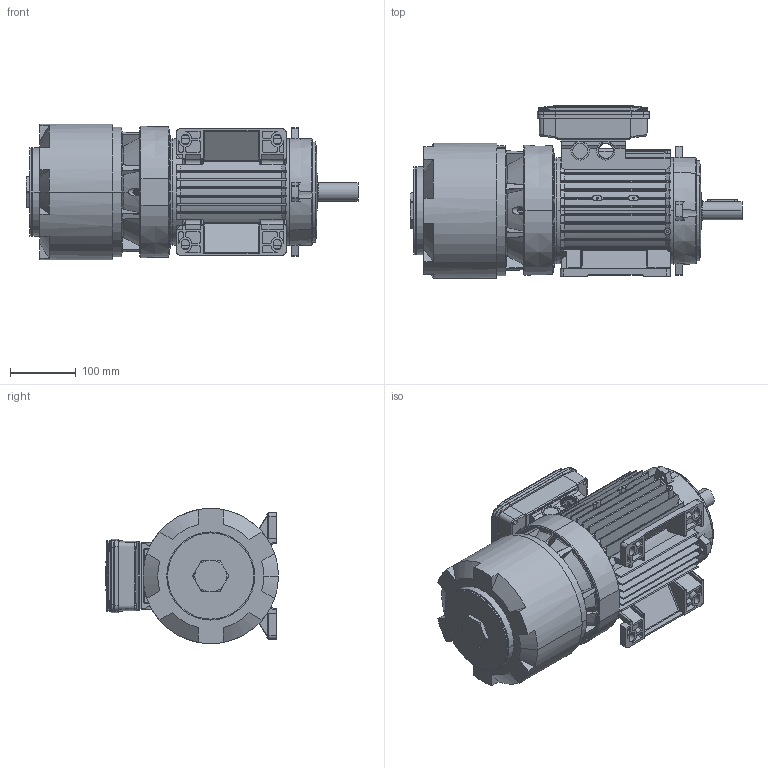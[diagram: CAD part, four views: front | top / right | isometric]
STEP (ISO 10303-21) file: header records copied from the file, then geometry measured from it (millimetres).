
FILE_DESCRIPTION (( 'STEP AP214' ), '1' );
FILE_NAME ('M08GA0010.STEP', '2020-11-04T15:22:36', ( '' ), ( '' ), 'SwSTEP 2.0', 'SolidWorks 2018', '' );
FILE_SCHEMA (( 'AUTOMOTIVE_DESIGN' ));
Length unit declared in the file: millimetre
Products named in the file (15): Scatola per Morsettiera Doppia 90-100-112 - Completa; Guarnizione Coperchio Semplice Scatola BA 90 100 112 - DDAL0094; Vite  a testa bombata M4x16; Coperchio per Scatola per Morsettiera Doppia 90-100-112; Scatola per Morsettiera Doppia 90-100-112; Scudo Lato Comando B3 BA-BM 100 - DEAD0094; Chiavetta 100-112; Convogliatore con pista d''attrito P2 BAH 100 -; Scudo Lato Freno BA 100 P1 - DEAE0194; Albero BA 100; Carcassa 100 L B3; M08GA0010; Vite BAH 80; Tappo a testa Esagonale M40x1,5; cuffia BAH 100 - DEFK0019
Assembly tree (17 placements, depth 3):
  M08GA0010
    Carcassa 100 L B3
    Albero BA 100
    Scudo Lato Freno BA 100 P1 - DEAE0194
    Convogliatore con pista d''attrito P2 BAH 100 -
    Chiavetta 100-112
    Scudo Lato Comando B3 BA-BM 100 - DEAD0094
    Scatola per Morsettiera Doppia 90-100-112 - Completa
      Scatola per Morsettiera Doppia 90-100-112
      Coperchio per Scatola per Morsettiera Doppia 90-100-112
      Vite  a testa bombata M4x16  x4
      Guarnizione Coperchio Semplice Scatola BA 90 100 112 - DDAL0094
    cuffia BAH 100 - DEFK0019
    Vite BAH 80
    Tappo a testa Esagonale M40x1,5
Bounding box: 505.5 x 263 x 206 mm (x, y, z)
Volume: 2841139.6 mm3; surface area: 1257877.5 mm2
Topology: 18 solids, 18 shells, 3280 faces, 9057 edges, 5798 vertices
Faces by surface type: plane 1218, cylinder 1182, torus 409, cone 284, bspline 175, sphere 12
Entity records: 117673 total; most frequent: CARTESIAN_POINT 39032, ORIENTED_EDGE 17238, DIRECTION 15390, EDGE_CURVE 8619, AXIS2_PLACEMENT_3D 5828, VERTEX_POINT 5570, LINE 3734, VECTOR 3734
